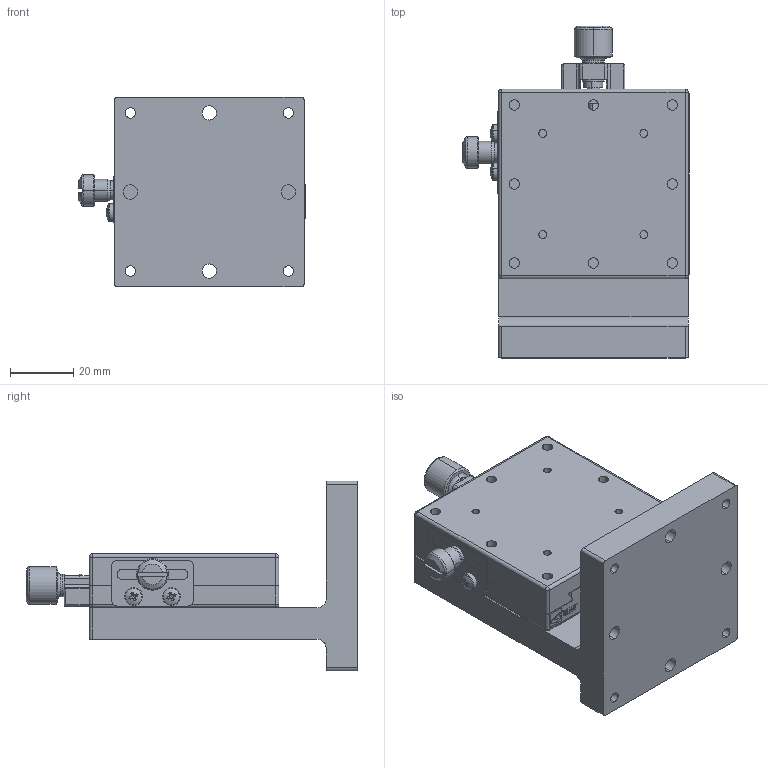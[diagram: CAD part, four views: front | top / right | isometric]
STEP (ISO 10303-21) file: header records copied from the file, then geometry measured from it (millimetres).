
FILE_DESCRIPTION (( 'STEP AP203' ), '1' );
FILE_NAME ('MC4A-60(«¬¿ý).STEP', '2013-05-27T02:43:21', ( '123' ), ( '' ), 'SwSTEP 2.0', 'SolidWorks 2013', '' );
FILE_SCHEMA (( 'CONFIG_CONTROL_DESIGN' ));
Length unit declared in the file: millimetre
Products named in the file (5): AZB60-2(型錄); Group2^MC1A-60(型錄); Group3^MC1A-60(型錄); MC1A-60(型錄); MC4A-60(型錄)
Assembly tree (4 placements, depth 3):
  MC4A-60(型錄)
    AZB60-2(型錄)
    MC1A-60(型錄)
      Group2^MC1A-60(型錄)
      Group3^MC1A-60(型錄)
Bounding box: 71.6 x 105 x 60 mm (x, y, z)
Volume: 136200 mm3; surface area: 47060.8 mm2
Topology: 6 solids, 6 shells, 1619 faces, 4329 edges, 2805 vertices
Faces by surface type: plane 963, cylinder 265, bspline 262, cone 104, torus 14, sphere 11
Entity records: 66201 total; most frequent: CARTESIAN_POINT 26612, ORIENTED_EDGE 8628, DIRECTION 7136, EDGE_CURVE 4314, VECTOR 3008, LINE 3008, VERTEX_POINT 2805, AXIS2_PLACEMENT_3D 2064
